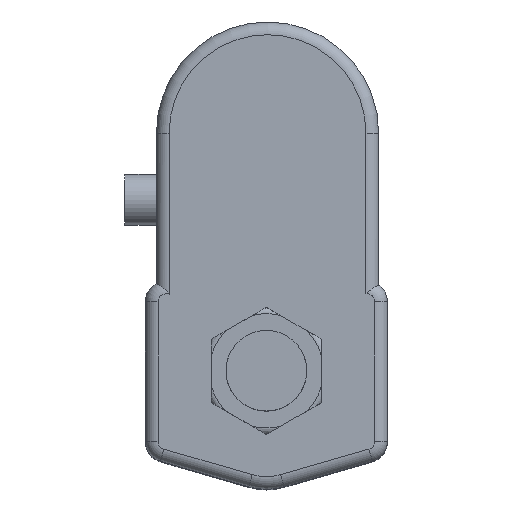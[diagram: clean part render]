
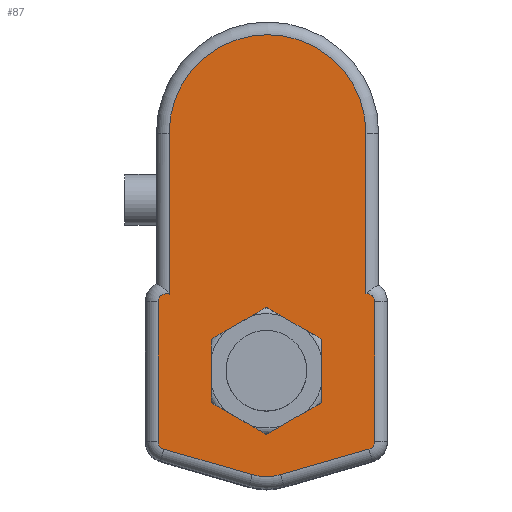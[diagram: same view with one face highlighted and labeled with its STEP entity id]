
A CAD part, top view. The second image highlights one B-rep face of the part: STEP entity #87.
In plain terms, the highlighted planar face has unit normal (0, 0, 1).
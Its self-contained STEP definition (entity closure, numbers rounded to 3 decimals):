
#45 = EDGE_CURVE ( 'NONE', #1783, #1733, #572, .T. ) ;
#87 = ADVANCED_FACE ( 'NONE', ( #3486, #616 ), #462, .T. ) ;
#318 = VECTOR ( 'NONE', #2184, 1000. ) ;
#322 = LINE ( 'NONE', #2176, #318 ) ;
#346 = LINE ( 'NONE', #2767, #368 ) ;
#347 = VECTOR ( 'NONE', #2779, 1000. ) ;
#361 = LINE ( 'NONE', #2800, #387 ) ;
#368 = VECTOR ( 'NONE', #2772, 1000. ) ;
#374 = LINE ( 'NONE', #2773, #375 ) ;
#375 = VECTOR ( 'NONE', #2774, 1000. ) ;
#377 = LINE ( 'NONE', #2771, #347 ) ;
#378 = CIRCLE ( 'NONE', #2459, 31. ) ;
#379 = LINE ( 'NONE', #2780, #380 ) ;
#380 = VECTOR ( 'NONE', #2781, 1000. ) ;
#381 = LINE ( 'NONE', #2783, #382 ) ;
#382 = VECTOR ( 'NONE', #2784, 1000. ) ;
#385 = LINE ( 'NONE', #2804, #389 ) ;
#387 = VECTOR ( 'NONE', #2801, 1000. ) ;
#388 = CIRCLE ( 'NONE', #2462, 2.5 ) ;
#389 = VECTOR ( 'NONE', #2805, 1000. ) ;
#390 = CIRCLE ( 'NONE', #2457, 2.5 ) ;
#392 = CIRCLE ( 'NONE', #2467, 2.5 ) ;
#393 = LINE ( 'NONE', #2806, #394 ) ;
#394 = VECTOR ( 'NONE', #2807, 1000. ) ;
#405 = LINE ( 'NONE', #2833, #407 ) ;
#407 = VECTOR ( 'NONE', #2834, 1000. ) ;
#431 = DIRECTION ( 'NONE',  ( 0., 0., 1. ) ) ;
#442 = CARTESIAN_POINT ( 'NONE',  ( 31.6, 21.81, 127.9 ) ) ;
#462 = PLANE ( 'NONE',  #2969 ) ;
#464 = DIRECTION ( 'NONE',  ( 1., 0., 0. ) ) ;
#572 = LINE ( 'NONE', #1834, #634 ) ;
#616 = FACE_BOUND ( 'NONE', #3171, .T. ) ;
#634 = VECTOR ( 'NONE', #1835, 1000. ) ;
#822 = ORIENTED_EDGE ( 'NONE', *, *, #4167, .T. ) ;
#823 = ORIENTED_EDGE ( 'NONE', *, *, #4216, .T. ) ;
#824 = ORIENTED_EDGE ( 'NONE', *, *, #4194, .T. ) ;
#825 = ORIENTED_EDGE ( 'NONE', *, *, #4169, .T. ) ;
#826 = ORIENTED_EDGE ( 'NONE', *, *, #4218, .T. ) ;
#827 = ORIENTED_EDGE ( 'NONE', *, *, #4183, .T. ) ;
#828 = ORIENTED_EDGE ( 'NONE', *, *, #4168, .T. ) ;
#829 = ORIENTED_EDGE ( 'NONE', *, *, #4171, .T. ) ;
#830 = ORIENTED_EDGE ( 'NONE', *, *, #4170, .T. ) ;
#831 = ORIENTED_EDGE ( 'NONE', *, *, #4172, .T. ) ;
#832 = ORIENTED_EDGE ( 'NONE', *, *, #4158, .T. ) ;
#833 = ORIENTED_EDGE ( 'NONE', *, *, #4161, .T. ) ;
#834 = ORIENTED_EDGE ( 'NONE', *, *, #4160, .F. ) ;
#835 = ORIENTED_EDGE ( 'NONE', *, *, #4159, .F. ) ;
#836 = ORIENTED_EDGE ( 'NONE', *, *, #4150, .F. ) ;
#837 = ORIENTED_EDGE ( 'NONE', *, *, #45, .F. ) ;
#838 = ORIENTED_EDGE ( 'NONE', *, *, #3834, .F. ) ;
#839 = ORIENTED_EDGE ( 'NONE', *, *, #2871, .F. ) ;
#928 = CARTESIAN_POINT ( 'NONE',  ( -32.293, -24.613, 127.9 ) ) ;
#929 = CARTESIAN_POINT ( 'NONE',  ( -30.624, 24.111, 127.9 ) ) ;
#931 = CARTESIAN_POINT ( 'NONE',  ( -34.1, 21.81, 127.9 ) ) ;
#932 = CARTESIAN_POINT ( 'NONE',  ( -34.1, -22.211, 127.9 ) ) ;
#1278 = CIRCLE ( 'NONE', #2476, 2.5 ) ;
#1305 = LINE ( 'NONE', #3877, #1311 ) ;
#1311 = VECTOR ( 'NONE', #3878, 1000. ) ;
#1314 = CIRCLE ( 'NONE', #2488, 16. ) ;
#1717 = VERTEX_POINT ( 'NONE', #3741 ) ;
#1728 = VERTEX_POINT ( 'NONE', #3753 ) ;
#1729 = VERTEX_POINT ( 'NONE', #3754 ) ;
#1731 = VERTEX_POINT ( 'NONE', #3756 ) ;
#1732 = VERTEX_POINT ( 'NONE', #3757 ) ;
#1733 = VERTEX_POINT ( 'NONE', #3758 ) ;
#1736 = VERTEX_POINT ( 'NONE', #3761 ) ;
#1754 = VERTEX_POINT ( 'NONE', #3779 ) ;
#1755 = VERTEX_POINT ( 'NONE', #3780 ) ;
#1763 = VERTEX_POINT ( 'NONE', #3788 ) ;
#1774 = VERTEX_POINT ( 'NONE', #3799 ) ;
#1778 = VERTEX_POINT ( 'NONE', #3803 ) ;
#1781 = VERTEX_POINT ( 'NONE', #3806 ) ;
#1783 = VERTEX_POINT ( 'NONE', #3808 ) ;
#1822 = VERTEX_POINT ( 'NONE', #928 ) ;
#1823 = VERTEX_POINT ( 'NONE', #929 ) ;
#1825 = VERTEX_POINT ( 'NONE', #931 ) ;
#1826 = VERTEX_POINT ( 'NONE', #932 ) ;
#1834 = CARTESIAN_POINT ( 'NONE',  ( -17.321, 10., 127.9 ) ) ;
#1835 = DIRECTION ( 'NONE',  ( 0., -1., 0. ) ) ;
#2176 = CARTESIAN_POINT ( 'NONE',  ( 17.321, 10., 127.9 ) ) ;
#2184 = DIRECTION ( 'NONE',  ( -0.866, 0.5, 0. ) ) ;
#2457 = AXIS2_PLACEMENT_3D ( 'NONE', #2792, #2798, #2799 ) ;
#2459 = AXIS2_PLACEMENT_3D ( 'NONE', #2768, #2776, #2777 ) ;
#2462 = AXIS2_PLACEMENT_3D ( 'NONE', #2795, #2796, #2797 ) ;
#2467 = AXIS2_PLACEMENT_3D ( 'NONE', #2778, #2802, #2803 ) ;
#2476 = AXIS2_PLACEMENT_3D ( 'NONE', #2858, #2860, #2861 ) ;
#2488 = AXIS2_PLACEMENT_3D ( 'NONE', #3871, #3883, #3884 ) ;
#2767 = CARTESIAN_POINT ( 'NONE',  ( 0., 20., 127.9 ) ) ;
#2768 = CARTESIAN_POINT ( 'NONE',  ( 0.376, 74.902, 127.9 ) ) ;
#2771 = CARTESIAN_POINT ( 'NONE',  ( 0., -20., 127.9 ) ) ;
#2772 = DIRECTION ( 'NONE',  ( -0.866, -0.5, 0. ) ) ;
#2773 = CARTESIAN_POINT ( 'NONE',  ( -17.321, -10., 127.9 ) ) ;
#2774 = DIRECTION ( 'NONE',  ( 0.866, -0.5, 0. ) ) ;
#2776 = DIRECTION ( 'NONE',  ( 0., 0., 1. ) ) ;
#2777 = DIRECTION ( 'NONE',  ( 1., 0., 0. ) ) ;
#2778 = CARTESIAN_POINT ( 'NONE',  ( 31.6, 21.81, 127.9 ) ) ;
#2779 = DIRECTION ( 'NONE',  ( 0.866, 0.5, 0. ) ) ;
#2780 = CARTESIAN_POINT ( 'NONE',  ( 17.321, -10., 127.9 ) ) ;
#2781 = DIRECTION ( 'NONE',  ( 0., 1., 0. ) ) ;
#2783 = CARTESIAN_POINT ( 'NONE',  ( -30.624, 21.81, 127.9 ) ) ;
#2784 = DIRECTION ( 'NONE',  ( 0., -1., 0. ) ) ;
#2792 = CARTESIAN_POINT ( 'NONE',  ( 31.6, -22.211, 127.9 ) ) ;
#2795 = CARTESIAN_POINT ( 'NONE',  ( -31.6, 21.81, 127.9 ) ) ;
#2796 = DIRECTION ( 'NONE',  ( 0., 0., 1. ) ) ;
#2797 = DIRECTION ( 'NONE',  ( 1., 0., 0. ) ) ;
#2798 = DIRECTION ( 'NONE',  ( 0., 0., 1. ) ) ;
#2799 = DIRECTION ( 'NONE',  ( 1., 0., 0. ) ) ;
#2800 = CARTESIAN_POINT ( 'NONE',  ( 14.312, -38.069, 127.9 ) ) ;
#2801 = DIRECTION ( 'NONE',  ( 0.961, -0.277, 0. ) ) ;
#2802 = DIRECTION ( 'NONE',  ( 0., 0., 1. ) ) ;
#2803 = DIRECTION ( 'NONE',  ( 1., 0., 0. ) ) ;
#2804 = CARTESIAN_POINT ( 'NONE',  ( 34.1, 21.81, 127.9 ) ) ;
#2805 = DIRECTION ( 'NONE',  ( 0., 1., 0. ) ) ;
#2806 = CARTESIAN_POINT ( 'NONE',  ( 31.376, 21.81, 127.9 ) ) ;
#2807 = DIRECTION ( 'NONE',  ( 0., 1., 0. ) ) ;
#2833 = CARTESIAN_POINT ( 'NONE',  ( 44.025, -21.226, 127.9 ) ) ;
#2834 = DIRECTION ( 'NONE',  ( 0.961, 0.277, 0. ) ) ;
#2858 = CARTESIAN_POINT ( 'NONE',  ( -31.6, -22.211, 127.9 ) ) ;
#2860 = DIRECTION ( 'NONE',  ( 0., 0., 1. ) ) ;
#2861 = DIRECTION ( 'NONE',  ( 1., 0., 0. ) ) ;
#2871 = EDGE_CURVE ( 'NONE', #1778, #1731, #322, .T. ) ;
#2969 = AXIS2_PLACEMENT_3D ( 'NONE', #442, #431, #464 ) ;
#3168 = EDGE_LOOP ( 'NONE', ( #822, #823, #824, #825, #826, #827, #828, #829, #830, #831, #832, #833 ) ) ;
#3171 = EDGE_LOOP ( 'NONE', ( #834, #835, #836, #837, #838, #839 ) ) ;
#3486 = FACE_OUTER_BOUND ( 'NONE', #3168, .T. ) ;
#3741 = CARTESIAN_POINT ( 'NONE',  ( 34.1, -22.211, 127.9 ) ) ;
#3753 = CARTESIAN_POINT ( 'NONE',  ( 31.376, 74.902, 127.9 ) ) ;
#3754 = CARTESIAN_POINT ( 'NONE',  ( 31.376, 24.299, 127.9 ) ) ;
#3756 = CARTESIAN_POINT ( 'NONE',  ( 0., 20., 127.9 ) ) ;
#3757 = CARTESIAN_POINT ( 'NONE',  ( 0., -20., 127.9 ) ) ;
#3758 = CARTESIAN_POINT ( 'NONE',  ( -17.321, -10., 127.9 ) ) ;
#3761 = CARTESIAN_POINT ( 'NONE',  ( 34.1, 21.81, 127.9 ) ) ;
#3779 = CARTESIAN_POINT ( 'NONE',  ( -4.438, -32.655, 127.9 ) ) ;
#3780 = CARTESIAN_POINT ( 'NONE',  ( 32.293, -24.613, 127.9 ) ) ;
#3788 = CARTESIAN_POINT ( 'NONE',  ( 17.321, -10., 127.9 ) ) ;
#3799 = CARTESIAN_POINT ( 'NONE',  ( 4.438, -32.655, 127.9 ) ) ;
#3803 = CARTESIAN_POINT ( 'NONE',  ( 17.321, 10., 127.9 ) ) ;
#3806 = CARTESIAN_POINT ( 'NONE',  ( -30.624, 74.902, 127.9 ) ) ;
#3808 = CARTESIAN_POINT ( 'NONE',  ( -17.321, 10., 127.9 ) ) ;
#3834 = EDGE_CURVE ( 'NONE', #1731, #1783, #346, .T. ) ;
#3871 = CARTESIAN_POINT ( 'NONE',  ( 0., -17.283, 127.9 ) ) ;
#3877 = CARTESIAN_POINT ( 'NONE',  ( -34.1, 21.81, 127.9 ) ) ;
#3878 = DIRECTION ( 'NONE',  ( 0., -1., 0. ) ) ;
#3883 = DIRECTION ( 'NONE',  ( 0., 0., 1. ) ) ;
#3884 = DIRECTION ( 'NONE',  ( 1., 0., 0. ) ) ;
#4150 = EDGE_CURVE ( 'NONE', #1733, #1732, #374, .T. ) ;
#4158 = EDGE_CURVE ( 'NONE', #1728, #1781, #378, .T. ) ;
#4159 = EDGE_CURVE ( 'NONE', #1732, #1763, #377, .T. ) ;
#4160 = EDGE_CURVE ( 'NONE', #1763, #1778, #379, .T. ) ;
#4161 = EDGE_CURVE ( 'NONE', #1781, #1823, #381, .T. ) ;
#4167 = EDGE_CURVE ( 'NONE', #1823, #1825, #388, .T. ) ;
#4168 = EDGE_CURVE ( 'NONE', #1755, #1717, #390, .T. ) ;
#4169 = EDGE_CURVE ( 'NONE', #1822, #1754, #361, .T. ) ;
#4170 = EDGE_CURVE ( 'NONE', #1736, #1729, #392, .T. ) ;
#4171 = EDGE_CURVE ( 'NONE', #1717, #1736, #385, .T. ) ;
#4172 = EDGE_CURVE ( 'NONE', #1729, #1728, #393, .T. ) ;
#4183 = EDGE_CURVE ( 'NONE', #1774, #1755, #405, .T. ) ;
#4194 = EDGE_CURVE ( 'NONE', #1826, #1822, #1278, .T. ) ;
#4216 = EDGE_CURVE ( 'NONE', #1825, #1826, #1305, .T. ) ;
#4218 = EDGE_CURVE ( 'NONE', #1754, #1774, #1314, .T. ) ;
